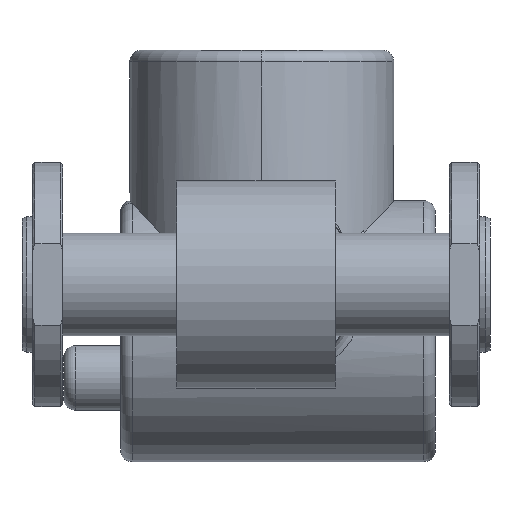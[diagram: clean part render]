
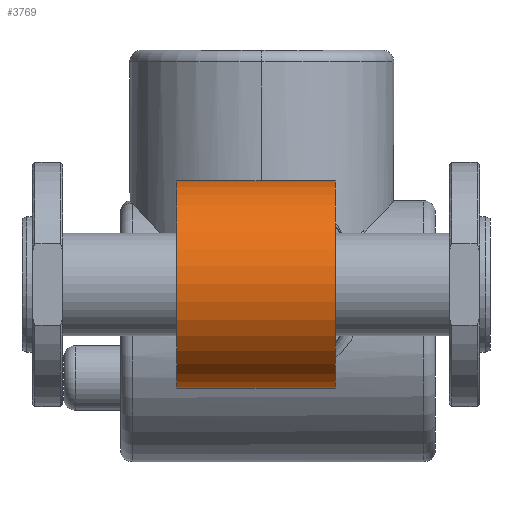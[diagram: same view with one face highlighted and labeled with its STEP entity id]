
A CAD part, front view. The second image highlights one B-rep face of the part: STEP entity #3769.
In plain terms, the highlighted cylindrical face has radius 44.5 mm (diameter 89 mm), a partial arc.
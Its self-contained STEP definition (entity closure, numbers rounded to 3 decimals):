
#36 = DIRECTION ( 'NONE',  ( -1., 0., 0. ) ) ;
#103 = CARTESIAN_POINT ( 'NONE',  ( -34., 0., 0. ) ) ;
#229 = LINE ( 'NONE', #690, #5519 ) ;
#287 = VECTOR ( 'NONE', #9204, 1000. ) ;
#487 = EDGE_LOOP ( 'NONE', ( #3125, #2075, #7386, #5218 ) ) ;
#690 = CARTESIAN_POINT ( 'NONE',  ( -110.198, 0., 44.5 ) ) ;
#1032 = DIRECTION ( 'NONE',  ( -1., 0., 0. ) ) ;
#1148 = VERTEX_POINT ( 'NONE', #7679 ) ;
#1205 = AXIS2_PLACEMENT_3D ( 'NONE', #3904, #1032, #7437 ) ;
#1353 = CARTESIAN_POINT ( 'NONE',  ( -110.198, 0., -44.5 ) ) ;
#1395 = CIRCLE ( 'NONE', #7379, 44.5 ) ;
#1892 = VERTEX_POINT ( 'NONE', #5838 ) ;
#2022 = DIRECTION ( 'NONE',  ( 0., 0., 1. ) ) ;
#2075 = ORIENTED_EDGE ( 'NONE', *, *, #4965, .T. ) ;
#3125 = ORIENTED_EDGE ( 'NONE', *, *, #8529, .F. ) ;
#3453 = DIRECTION ( 'NONE',  ( -1., 0., 0. ) ) ;
#3769 = ADVANCED_FACE ( 'NONE', ( #4396 ), #9251, .T. ) ;
#3904 = CARTESIAN_POINT ( 'NONE',  ( 34., 0., 0. ) ) ;
#4396 = FACE_OUTER_BOUND ( 'NONE', #487, .T. ) ;
#4656 = VERTEX_POINT ( 'NONE', #5636 ) ;
#4965 = EDGE_CURVE ( 'NONE', #1148, #4656, #8244, .T. ) ;
#5218 = ORIENTED_EDGE ( 'NONE', *, *, #7017, .F. ) ;
#5478 = VERTEX_POINT ( 'NONE', #6058 ) ;
#5519 = VECTOR ( 'NONE', #36, 1000. ) ;
#5636 = CARTESIAN_POINT ( 'NONE',  ( 34., 0., 44.5 ) ) ;
#5838 = CARTESIAN_POINT ( 'NONE',  ( -34., 0., 44.5 ) ) ;
#5843 = DIRECTION ( 'NONE',  ( -1., 0., 0. ) ) ;
#6058 = CARTESIAN_POINT ( 'NONE',  ( -34., 0., -44.5 ) ) ;
#6349 = EDGE_CURVE ( 'NONE', #4656, #1892, #229, .T. ) ;
#7017 = EDGE_CURVE ( 'NONE', #5478, #1892, #1395, .T. ) ;
#7379 = AXIS2_PLACEMENT_3D ( 'NONE', #103, #5843, #8030 ) ;
#7386 = ORIENTED_EDGE ( 'NONE', *, *, #6349, .T. ) ;
#7437 = DIRECTION ( 'NONE',  ( 0., 0., 1. ) ) ;
#7679 = CARTESIAN_POINT ( 'NONE',  ( 34., 0., -44.5 ) ) ;
#8030 = DIRECTION ( 'NONE',  ( 0., 0., 1. ) ) ;
#8244 = CIRCLE ( 'NONE', #1205, 44.5 ) ;
#8458 = AXIS2_PLACEMENT_3D ( 'NONE', #9268, #3453, #2022 ) ;
#8529 = EDGE_CURVE ( 'NONE', #1148, #5478, #9284, .T. ) ;
#9204 = DIRECTION ( 'NONE',  ( -1., 0., 0. ) ) ;
#9251 = CYLINDRICAL_SURFACE ( 'NONE', #8458, 44.5 ) ;
#9268 = CARTESIAN_POINT ( 'NONE',  ( -110.198, 0., 0. ) ) ;
#9284 = LINE ( 'NONE', #1353, #287 ) ;
